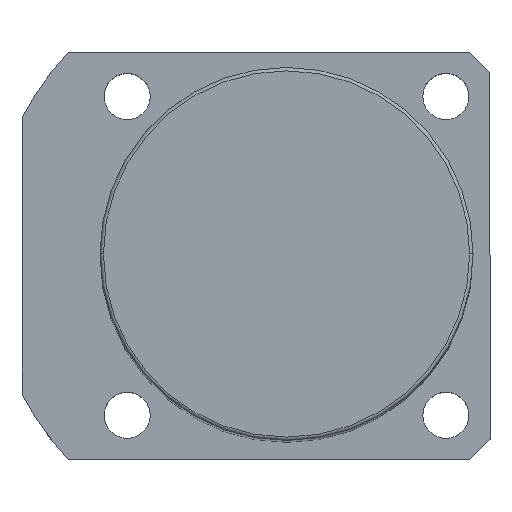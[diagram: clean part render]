
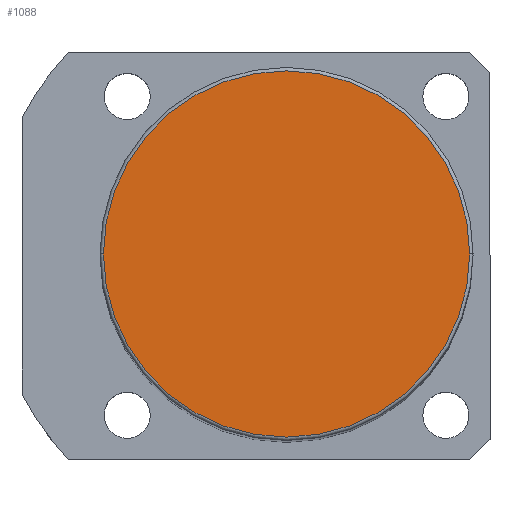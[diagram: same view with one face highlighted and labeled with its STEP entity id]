
A CAD part, top view. The second image highlights one B-rep face of the part: STEP entity #1088.
In plain terms, the highlighted planar face has unit normal (0, 0, 1).
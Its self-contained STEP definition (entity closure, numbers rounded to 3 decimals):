
#19 = AXIS2_PLACEMENT_3D ( 'NONE', #1285, #537, #90 ) ;
#90 = DIRECTION ( 'NONE',  ( 1., 0., 0. ) ) ;
#153 = DIRECTION ( 'NONE',  ( 1., 0., 0. ) ) ;
#161 = DIRECTION ( 'NONE',  ( 0., 0., 1. ) ) ;
#292 = VERTEX_POINT ( 'NONE', #725 ) ;
#391 = CIRCLE ( 'NONE', #718, 27. ) ;
#392 = EDGE_LOOP ( 'NONE', ( #1436, #1467 ) ) ;
#537 = DIRECTION ( 'NONE',  ( 0., 0., 1. ) ) ;
#566 = FACE_OUTER_BOUND ( 'NONE', #392, .T. ) ;
#606 = VERTEX_POINT ( 'NONE', #622 ) ;
#622 = CARTESIAN_POINT ( 'NONE',  ( 27., 0., 171. ) ) ;
#693 = DIRECTION ( 'NONE',  ( 1., 0., 0. ) ) ;
#718 = AXIS2_PLACEMENT_3D ( 'NONE', #1017, #998, #693 ) ;
#725 = CARTESIAN_POINT ( 'NONE',  ( -27., 0., 171. ) ) ;
#815 = EDGE_CURVE ( 'NONE', #292, #606, #1190, .T. ) ;
#998 = DIRECTION ( 'NONE',  ( 0., 0., 1. ) ) ;
#1017 = CARTESIAN_POINT ( 'NONE',  ( 0., 0., 171. ) ) ;
#1067 = CARTESIAN_POINT ( 'NONE',  ( 0., 0., 171. ) ) ;
#1071 = PLANE ( 'NONE',  #1632 ) ;
#1088 = ADVANCED_FACE ( 'NONE', ( #566 ), #1071, .T. ) ;
#1190 = CIRCLE ( 'NONE', #19, 27. ) ;
#1285 = CARTESIAN_POINT ( 'NONE',  ( 0., 0., 171. ) ) ;
#1436 = ORIENTED_EDGE ( 'NONE', *, *, #1627, .T. ) ;
#1467 = ORIENTED_EDGE ( 'NONE', *, *, #815, .T. ) ;
#1627 = EDGE_CURVE ( 'NONE', #606, #292, #391, .T. ) ;
#1632 = AXIS2_PLACEMENT_3D ( 'NONE', #1067, #161, #153 ) ;
